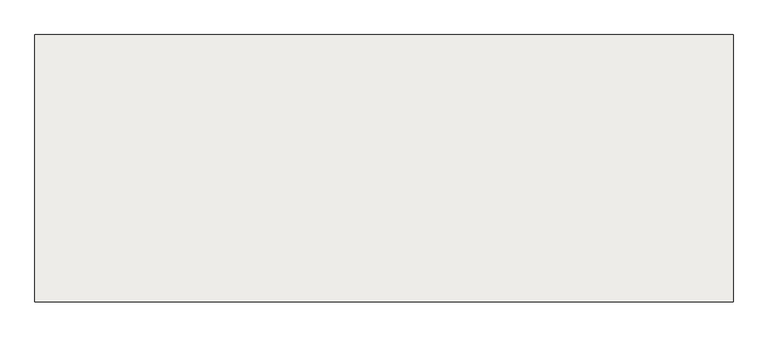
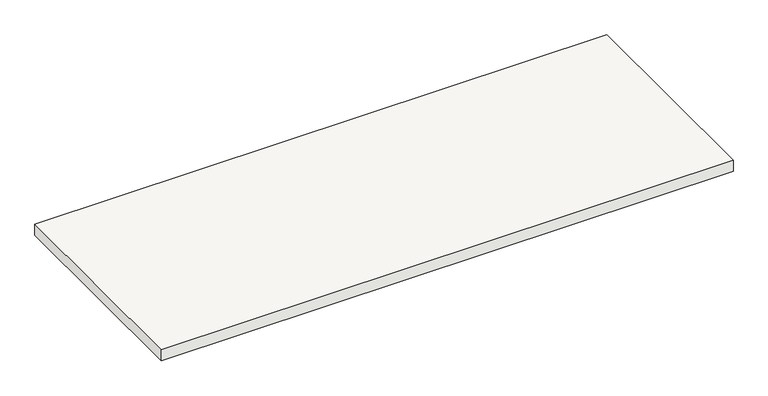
"""IFC4 building model written with IfcOpenShell, lengths in millimetres: slab geometry."""

from ifc_helpers import new_model, si_unit, frame, origin, place, context, project, spatial, polyline, outline, extrude, source, transform, mapped, element, save


def slab_84e29d04(model_context):
    return source(origin(), model_context, "Body", "SweptSolid", [
        extrude(outline(polyline([(1984.7, 760.0), (1984.7, -759.99), (-1984.7, -760.0), (-1984.69, 759.99), (1984.7, 760.0)])), frame((0.0, 0.0, -80.0), z_axis=(0.0, 0.0, 1.0), x_axis=(1.0, 0.0, 0.0)), (0.0, 0.0, 1.0), 80.0),
    ])


if __name__ == "__main__":
    model = new_model("IFC4")
    model_context = context("Model", 3, world=origin())
    ifc_project = project(units=[si_unit("LENGTHUNIT", "METRE", prefix="MILLI")], contexts=[model_context])
    site = spatial("IfcSite", under=ifc_project)
    building = spatial("IfcBuilding", under=site)
    placement = place(None, origin())
    slab_shape = slab_84e29d04(model_context)
    element("IfcSlab", 1, at=placement, inside=building, context=model_context, shape_type="MappedRepresentation", body=[
        mapped(slab_shape, transform((0.0, 0.0, 0.0), x_axis=(1.0, 0.0, 0.0), y_axis=(0.0, 1.0, 0.0), z_axis=(0.0, 0.0, 1.0))),
    ])
    save(model, "model.ifc")
